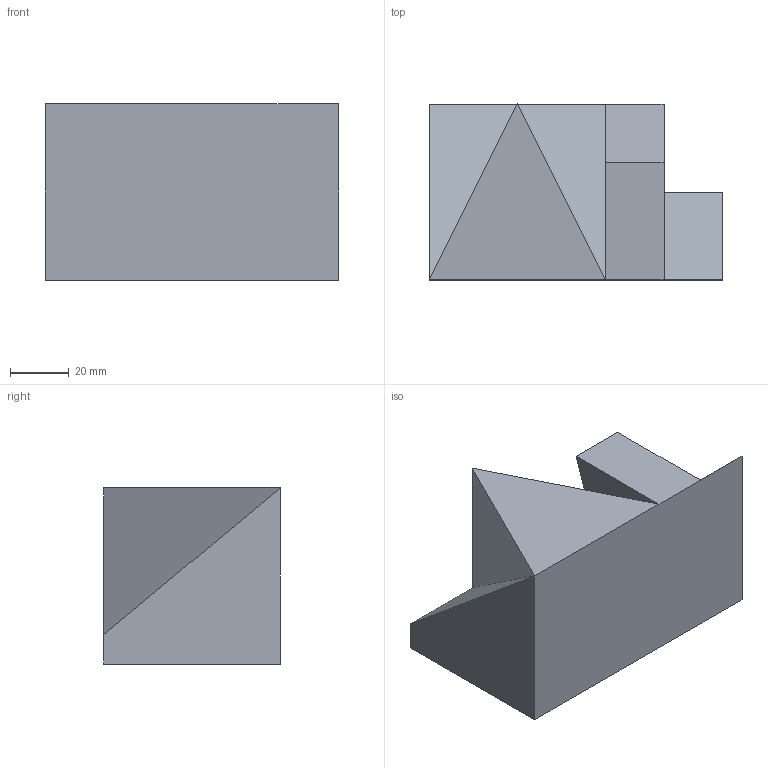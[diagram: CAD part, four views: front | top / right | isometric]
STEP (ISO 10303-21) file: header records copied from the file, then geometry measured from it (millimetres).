
FILE_DESCRIPTION(/* description */ (''),/* implementation_level */ '2;1');
FILE_NAME(/* time_stamp */ '2020-06-16T15:00:42+01:00',/* author */ ('DesignClass.co.uk'),/* originating_system */ 'Solidworks 2021',/* authorisation */ '');
FILE_SCHEMA (('AUTOMOTIVE_DESIGN { 1 0 10303 214 3 1 1 }'));
Length unit declared in the file: millimetre
Products named in the file (1): Task_8
Bounding box: 100 x 60 x 60 mm (x, y, z)
Volume: 227700 mm3; surface area: 28539.5 mm2
Topology: 1 solids, 1 shells, 18 faces, 38 edges, 22 vertices
Faces by surface type: plane 18
Entity records: 503 total; most frequent: CARTESIAN_POINT 79, ORIENTED_EDGE 76, DIRECTION 76, LINE 38, VECTOR 38, EDGE_CURVE 38, VERTEX_POINT 22, AXIS2_PLACEMENT_3D 19
